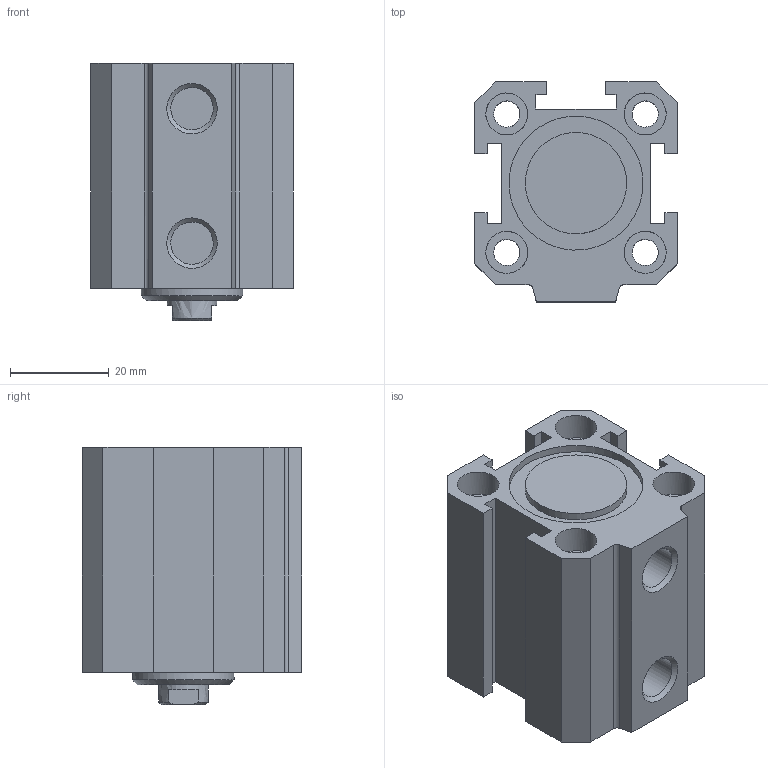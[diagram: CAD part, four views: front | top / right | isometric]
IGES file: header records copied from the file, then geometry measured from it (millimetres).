
Global section: file name: 1511_25_0010; native system: Autodesk Inventor 2014; preprocessor: unknown; author: A. Manieri; date: 20160824.111827; units: millimetre
Bounding box: 41 x 44.5 x 52 mm (x, y, z)
Volume: 56243.5 mm3; surface area: 23095.6 mm2
Topology: 2 solids, 2 shells, 93 faces, 241 edges, 170 vertices
Faces by surface type: bspline 93
